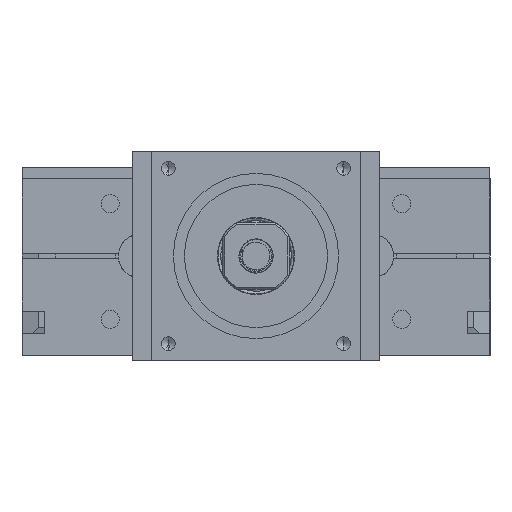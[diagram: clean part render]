
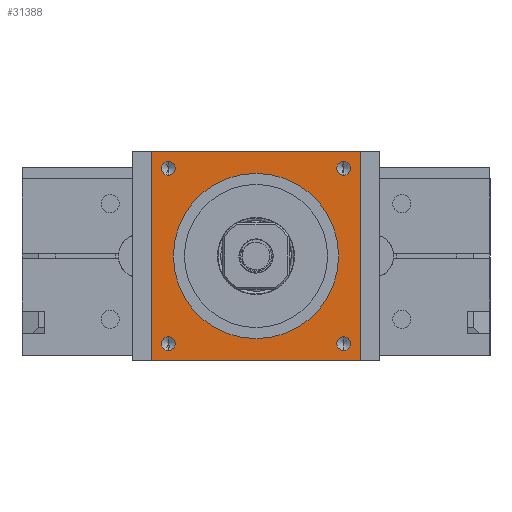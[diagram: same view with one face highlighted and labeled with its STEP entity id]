
A CAD part, left-side view. The second image highlights one B-rep face of the part: STEP entity #31388.
In plain terms, the highlighted planar face has unit normal (-1, 0, 0) as drawn and (0, -1, 0) by its records, which use the part's own axes.
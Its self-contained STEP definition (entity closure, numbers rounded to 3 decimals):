
#382 = FACE_BOUND ( 'NONE', #6683, .T. ) ;
#642 = CARTESIAN_POINT ( 'NONE',  ( -15.91, 0., 15.91 ) ) ;
#1598 = CARTESIAN_POINT ( 'NONE',  ( -22.5, 0., 19. ) ) ;
#2744 = EDGE_CURVE ( 'NONE', #9797, #20915, #33546, .T. ) ;
#3201 = VECTOR ( 'NONE', #5198, 1000. ) ;
#4090 = CARTESIAN_POINT ( 'NONE',  ( -19., 0., 19. ) ) ;
#4148 = CIRCLE ( 'NONE', #5089, 1.25 ) ;
#4458 = FACE_BOUND ( 'NONE', #49646, .T. ) ;
#4685 = CARTESIAN_POINT ( 'NONE',  ( 15.91, 0., 17.16 ) ) ;
#4838 = DIRECTION ( 'NONE',  ( 0., 0., -1. ) ) ;
#4942 = LINE ( 'NONE', #4090, #7500 ) ;
#4944 = CARTESIAN_POINT ( 'NONE',  ( 15.91, 0., 14.66 ) ) ;
#4996 = DIRECTION ( 'NONE',  ( 0., -1., 0. ) ) ;
#5089 = AXIS2_PLACEMENT_3D ( 'NONE', #37737, #14370, #28210 ) ;
#5153 = AXIS2_PLACEMENT_3D ( 'NONE', #29475, #20832, #42737 ) ;
#5198 = DIRECTION ( 'NONE',  ( -1., 0., 0. ) ) ;
#5484 = LINE ( 'NONE', #44707, #3201 ) ;
#5745 = CARTESIAN_POINT ( 'NONE',  ( 15.91, 0., 15.91 ) ) ;
#5967 = VERTEX_POINT ( 'NONE', #22392 ) ;
#6472 = EDGE_LOOP ( 'NONE', ( #35148, #50811 ) ) ;
#6683 = EDGE_LOOP ( 'NONE', ( #23517, #47030 ) ) ;
#7270 = DIRECTION ( 'NONE',  ( 0., -1., 0. ) ) ;
#7500 = VECTOR ( 'NONE', #26877, 1000. ) ;
#8548 = PLANE ( 'NONE',  #13191 ) ;
#9140 = EDGE_CURVE ( 'NONE', #30884, #45273, #11799, .T. ) ;
#9534 = VERTEX_POINT ( 'NONE', #15975 ) ;
#9792 = AXIS2_PLACEMENT_3D ( 'NONE', #18404, #26799, #40087 ) ;
#9797 = VERTEX_POINT ( 'NONE', #20450 ) ;
#10079 = DIRECTION ( 'NONE',  ( 0., 0., -1. ) ) ;
#10286 = EDGE_CURVE ( 'NONE', #22604, #32362, #29653, .T. ) ;
#10427 = DIRECTION ( 'NONE',  ( 0., 0., -1. ) ) ;
#10544 = EDGE_CURVE ( 'NONE', #5967, #32362, #53820, .T. ) ;
#10715 = CIRCLE ( 'NONE', #9792, 1.25 ) ;
#10838 = DIRECTION ( 'NONE',  ( 0., 0., -1. ) ) ;
#11799 = CIRCLE ( 'NONE', #19112, 1.25 ) ;
#12349 = ORIENTED_EDGE ( 'NONE', *, *, #51033, .T. ) ;
#12698 = EDGE_CURVE ( 'NONE', #55641, #9534, #4148, .T. ) ;
#12740 = VERTEX_POINT ( 'NONE', #15776 ) ;
#12965 = DIRECTION ( 'NONE',  ( 0., -1., 0. ) ) ;
#13191 = AXIS2_PLACEMENT_3D ( 'NONE', #22049, #43713, #43425 ) ;
#14368 = VERTEX_POINT ( 'NONE', #4685 ) ;
#14370 = DIRECTION ( 'NONE',  ( 0., -1., 0. ) ) ;
#14385 = VERTEX_POINT ( 'NONE', #18509 ) ;
#14522 = DIRECTION ( 'NONE',  ( 0., 0., -1. ) ) ;
#15588 = DIRECTION ( 'NONE',  ( 0., -1., 0. ) ) ;
#15776 = CARTESIAN_POINT ( 'NONE',  ( 15.91, 0., -14.66 ) ) ;
#15975 = CARTESIAN_POINT ( 'NONE',  ( -15.91, 0., 14.66 ) ) ;
#16001 = AXIS2_PLACEMENT_3D ( 'NONE', #37383, #53275, #10838 ) ;
#16044 = EDGE_LOOP ( 'NONE', ( #12349, #48980, #38049, #30645 ) ) ;
#17964 = EDGE_CURVE ( 'NONE', #12740, #34095, #23274, .T. ) ;
#18356 = CARTESIAN_POINT ( 'NONE',  ( -15.91, 0., 17.16 ) ) ;
#18404 = CARTESIAN_POINT ( 'NONE',  ( -15.91, 0., -15.91 ) ) ;
#18509 = CARTESIAN_POINT ( 'NONE',  ( -19., 0., -19. ) ) ;
#18804 = CARTESIAN_POINT ( 'NONE',  ( 0., 0., 0. ) ) ;
#19112 = AXIS2_PLACEMENT_3D ( 'NONE', #46200, #7270, #46476 ) ;
#19892 = CARTESIAN_POINT ( 'NONE',  ( 19., 0., -19. ) ) ;
#20037 = EDGE_CURVE ( 'NONE', #14368, #39900, #26167, .T. ) ;
#20450 = CARTESIAN_POINT ( 'NONE',  ( 0., 0., -15. ) ) ;
#20607 = EDGE_LOOP ( 'NONE', ( #38863, #52731 ) ) ;
#20832 = DIRECTION ( 'NONE',  ( 0., -1., 0. ) ) ;
#20915 = VERTEX_POINT ( 'NONE', #48305 ) ;
#21379 = EDGE_CURVE ( 'NONE', #20915, #9797, #27440, .T. ) ;
#21566 = CARTESIAN_POINT ( 'NONE',  ( 19., 0., 19. ) ) ;
#22049 = CARTESIAN_POINT ( 'NONE',  ( 0., 0., 0. ) ) ;
#22351 = AXIS2_PLACEMENT_3D ( 'NONE', #24228, #15588, #10427 ) ;
#22392 = CARTESIAN_POINT ( 'NONE',  ( -19., 0., 19. ) ) ;
#22604 = VERTEX_POINT ( 'NONE', #19892 ) ;
#23274 = CIRCLE ( 'NONE', #22351, 1.25 ) ;
#23517 = ORIENTED_EDGE ( 'NONE', *, *, #34717, .F. ) ;
#24228 = CARTESIAN_POINT ( 'NONE',  ( 15.91, 0., -15.91 ) ) ;
#25334 = DIRECTION ( 'NONE',  ( 0., 0., 1. ) ) ;
#26094 = FACE_BOUND ( 'NONE', #28248, .T. ) ;
#26167 = CIRCLE ( 'NONE', #42782, 1.25 ) ;
#26799 = DIRECTION ( 'NONE',  ( 0., -1., 0. ) ) ;
#26877 = DIRECTION ( 'NONE',  ( 0., 0., -1. ) ) ;
#26959 = FACE_BOUND ( 'NONE', #6472, .T. ) ;
#27440 = CIRCLE ( 'NONE', #28368, 15. ) ;
#27944 = DIRECTION ( 'NONE',  ( 0., -1., 0. ) ) ;
#28210 = DIRECTION ( 'NONE',  ( 0., 0., -1. ) ) ;
#28248 = EDGE_LOOP ( 'NONE', ( #54176, #45446 ) ) ;
#28368 = AXIS2_PLACEMENT_3D ( 'NONE', #18804, #44497, #14522 ) ;
#29475 = CARTESIAN_POINT ( 'NONE',  ( 15.91, 0., -15.91 ) ) ;
#29507 = CARTESIAN_POINT ( 'NONE',  ( -15.91, 0., -14.66 ) ) ;
#29653 = LINE ( 'NONE', #47246, #50179 ) ;
#30645 = ORIENTED_EDGE ( 'NONE', *, *, #10544, .F. ) ;
#30884 = VERTEX_POINT ( 'NONE', #29507 ) ;
#31388 = ADVANCED_FACE ( 'NONE', ( #39688, #382, #26094, #26959, #4458, #56653 ), #8548, .F. ) ;
#32362 = VERTEX_POINT ( 'NONE', #21566 ) ;
#32796 = EDGE_CURVE ( 'NONE', #22604, #14385, #5484, .T. ) ;
#33546 = CIRCLE ( 'NONE', #16001, 15. ) ;
#34095 = VERTEX_POINT ( 'NONE', #52977 ) ;
#34717 = EDGE_CURVE ( 'NONE', #34095, #12740, #39283, .T. ) ;
#35148 = ORIENTED_EDGE ( 'NONE', *, *, #37637, .F. ) ;
#36344 = EDGE_CURVE ( 'NONE', #39900, #14368, #43726, .T. ) ;
#37383 = CARTESIAN_POINT ( 'NONE',  ( 0., 0., 0. ) ) ;
#37637 = EDGE_CURVE ( 'NONE', #9534, #55641, #52230, .T. ) ;
#37737 = CARTESIAN_POINT ( 'NONE',  ( -15.91, 0., 15.91 ) ) ;
#38049 = ORIENTED_EDGE ( 'NONE', *, *, #10286, .T. ) ;
#38863 = ORIENTED_EDGE ( 'NONE', *, *, #55602, .F. ) ;
#39283 = CIRCLE ( 'NONE', #5153, 1.25 ) ;
#39688 = FACE_BOUND ( 'NONE', #20607, .T. ) ;
#39900 = VERTEX_POINT ( 'NONE', #4944 ) ;
#39934 = DIRECTION ( 'NONE',  ( 0., 0., -1. ) ) ;
#40087 = DIRECTION ( 'NONE',  ( 0., 0., -1. ) ) ;
#41035 = VECTOR ( 'NONE', #53530, 1000. ) ;
#41321 = ORIENTED_EDGE ( 'NONE', *, *, #21379, .F. ) ;
#42737 = DIRECTION ( 'NONE',  ( 0., 0., -1. ) ) ;
#42782 = AXIS2_PLACEMENT_3D ( 'NONE', #5745, #27944, #10079 ) ;
#43425 = DIRECTION ( 'NONE',  ( 0., 0., 1. ) ) ;
#43713 = DIRECTION ( 'NONE',  ( 0., 1., 0. ) ) ;
#43726 = CIRCLE ( 'NONE', #51982, 1.25 ) ;
#44360 = CARTESIAN_POINT ( 'NONE',  ( 15.91, 0., 15.91 ) ) ;
#44497 = DIRECTION ( 'NONE',  ( 0., -1., 0. ) ) ;
#44707 = CARTESIAN_POINT ( 'NONE',  ( -22.5, 0., -19. ) ) ;
#45273 = VERTEX_POINT ( 'NONE', #54910 ) ;
#45446 = ORIENTED_EDGE ( 'NONE', *, *, #20037, .F. ) ;
#46200 = CARTESIAN_POINT ( 'NONE',  ( -15.91, 0., -15.91 ) ) ;
#46476 = DIRECTION ( 'NONE',  ( 0., 0., -1. ) ) ;
#47030 = ORIENTED_EDGE ( 'NONE', *, *, #17964, .F. ) ;
#47246 = CARTESIAN_POINT ( 'NONE',  ( 19., 0., 19. ) ) ;
#48305 = CARTESIAN_POINT ( 'NONE',  ( 0., 0., 15. ) ) ;
#48980 = ORIENTED_EDGE ( 'NONE', *, *, #32796, .F. ) ;
#49646 = EDGE_LOOP ( 'NONE', ( #56949, #41321 ) ) ;
#50179 = VECTOR ( 'NONE', #25334, 1000. ) ;
#50811 = ORIENTED_EDGE ( 'NONE', *, *, #12698, .F. ) ;
#51033 = EDGE_CURVE ( 'NONE', #5967, #14385, #4942, .T. ) ;
#51982 = AXIS2_PLACEMENT_3D ( 'NONE', #44360, #12965, #4838 ) ;
#52230 = CIRCLE ( 'NONE', #56816, 1.25 ) ;
#52731 = ORIENTED_EDGE ( 'NONE', *, *, #9140, .F. ) ;
#52977 = CARTESIAN_POINT ( 'NONE',  ( 15.91, 0., -17.16 ) ) ;
#53275 = DIRECTION ( 'NONE',  ( 0., -1., 0. ) ) ;
#53530 = DIRECTION ( 'NONE',  ( 1., 0., 0. ) ) ;
#53820 = LINE ( 'NONE', #1598, #41035 ) ;
#54176 = ORIENTED_EDGE ( 'NONE', *, *, #36344, .F. ) ;
#54910 = CARTESIAN_POINT ( 'NONE',  ( -15.91, 0., -17.16 ) ) ;
#55602 = EDGE_CURVE ( 'NONE', #45273, #30884, #10715, .T. ) ;
#55641 = VERTEX_POINT ( 'NONE', #18356 ) ;
#56653 = FACE_OUTER_BOUND ( 'NONE', #16044, .T. ) ;
#56816 = AXIS2_PLACEMENT_3D ( 'NONE', #642, #4996, #39934 ) ;
#56949 = ORIENTED_EDGE ( 'NONE', *, *, #2744, .F. ) ;
